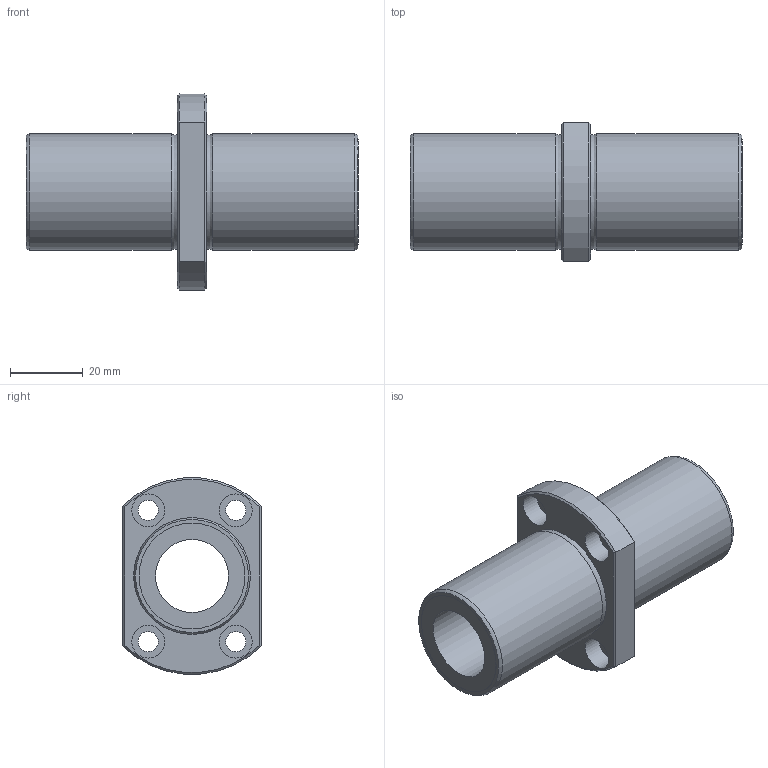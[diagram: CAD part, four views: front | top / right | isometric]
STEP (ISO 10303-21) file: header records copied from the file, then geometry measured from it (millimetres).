
FILE_DESCRIPTION((''),'2;1');
FILE_NAME('D:\製品 (図面)\カタログ用3D\メンテナンスフリー関連\STEP形式\LFDTC-MF\LFDTC20MF.stp','2010-06-01T15:48:27',('Tsuchiya'),(''),'Autodesk Inventor 10','Autodesk Inventor 10','');
FILE_SCHEMA(('AUTOMOTIVE_DESIGN { 1 0 10303 214 1 1 1 1 }'));
Length unit declared in the file: millimetre
Products named in the file (1): LFDTC20MF
Bounding box: 91 x 38 x 53.8 mm (x, y, z)
Volume: 51239 mm3; surface area: 18949.5 mm2
Topology: 1 solids, 1 shells, 39 faces, 75 edges, 46 vertices
Faces by surface type: plane 16, cylinder 15, cone 4, torus 2, bspline 2
Full cylindrical faces by diameter (mm): 5.5 x4, 9 x4, 20 x1, 29 x2, 32 x2
Entity records: 1073 total; most frequent: CARTESIAN_POINT 292, DIRECTION 164, ORIENTED_EDGE 116, AXIS2_PLACEMENT_3D 76, EDGE_LOOP 74, EDGE_CURVE 58, VERTEX_POINT 46, FACE_OUTER_BOUND 39
